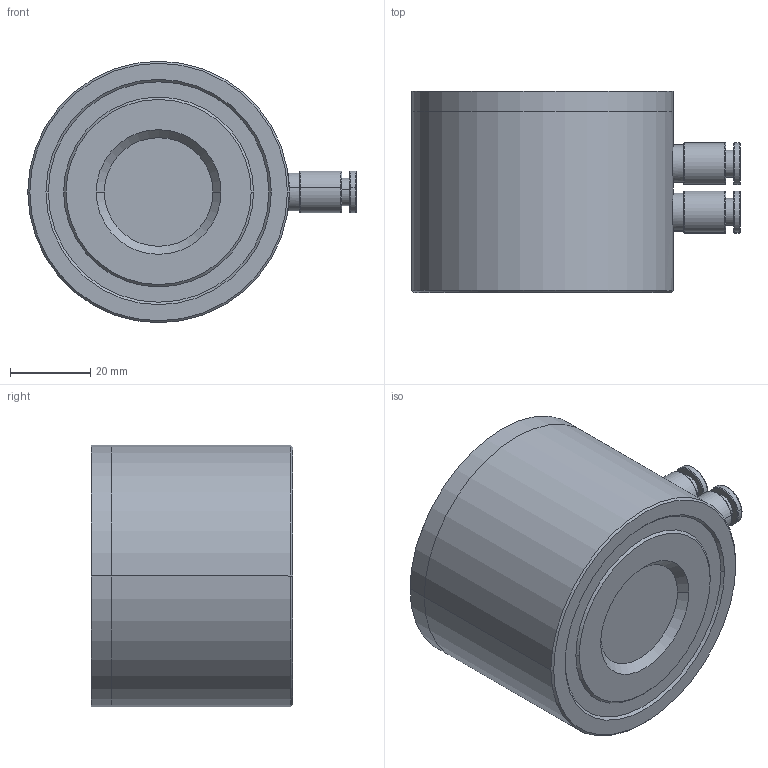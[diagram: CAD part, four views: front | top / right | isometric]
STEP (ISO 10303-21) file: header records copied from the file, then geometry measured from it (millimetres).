
FILE_DESCRIPTION (( 'STEP AP214' ), '1' );
FILE_NAME ('MAP-30 3D-model.STEP', '2015-02-11T14:24:58', ( '' ), ( '' ), 'SwSTEP 2.0', 'SolidWorks 2014', '' );
FILE_SCHEMA (( 'AUTOMOTIVE_DESIGN' ));
Length unit declared in the file: millimetre
Products named in the file (1): MAP-30 3D-model
Bounding box: 81.6 x 50 x 65 mm (x, y, z)
Volume: 165186.1 mm3; surface area: 19559.8 mm2
Topology: 1 solids, 1 shells, 191 faces, 458 edges, 292 vertices
Faces by surface type: plane 87, cylinder 60, torus 24, cone 20
Entity records: 6564 total; most frequent: CARTESIAN_POINT 1154, DIRECTION 994, ORIENTED_EDGE 916, EDGE_CURVE 458, AXIS2_PLACEMENT_3D 384, VERTEX_POINT 292, VECTOR 226, LINE 226
